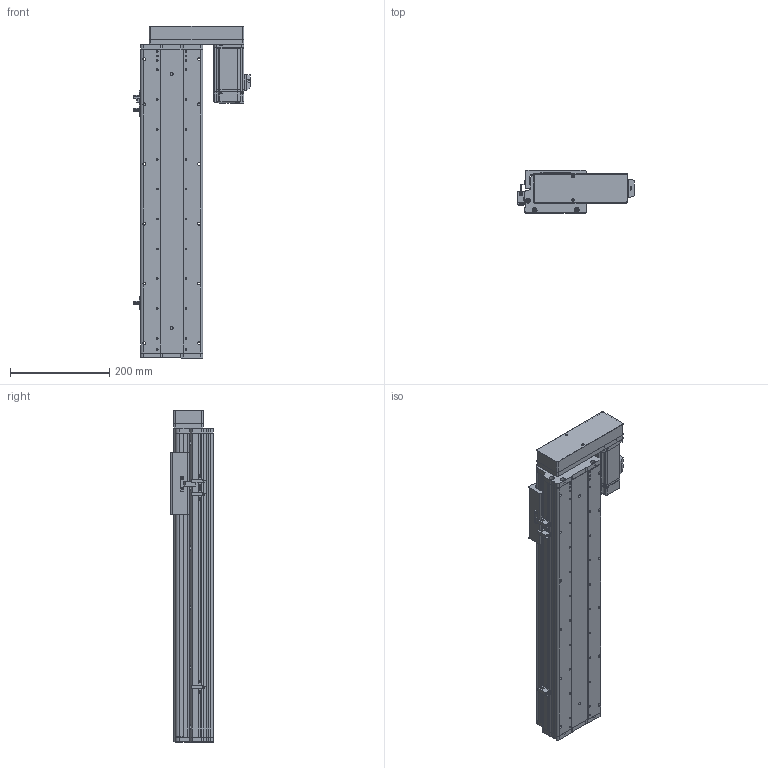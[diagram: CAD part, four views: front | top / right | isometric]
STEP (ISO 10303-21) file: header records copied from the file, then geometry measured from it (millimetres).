
FILE_DESCRIPTION (( 'STEP AP214' ), '1' );
FILE_NAME ('KSD125S-S400-MR-CM.STEP', '2017-10-21T08:54:46', ( '微软用户' ), ( '微软中国' ), 'SwSTEP 2.0', 'SolidWorks 2014', '' );
FILE_SCHEMA (( 'AUTOMOTIVE_DESIGN' ));
Length unit declared in the file: millimetre
Products named in the file (16): KSD125-賑雄釱1; 125-帣傷啣1; KSD125S-S400-MR-CM; HTPA30S3M150_A_H6_a佪裝蚚; HTPA30S3M150_A_H6_a萇儂蚚; 125宽马达安装板连板左右折丝杆; 125悵誘欶酘衵殏; MHMD042G1CA_2_03; KSD125S-400俴最佪裝滅鳥裔; KSD125S-400俴最佪裝菁啣; 拸萇儂釱滅袉菜; 拸萇儂釱滅袉菜-1; 覜茼え68遵圉猾敕; U倰嫖萇假蚾璃; U倰嫖萇EEㄜSX672; ヶ傷啣-125遵耀郪
Assembly tree (19 placements, depth 2):
  KSD125S-S400-MR-CM
    125-帣傷啣1
    KSD125-賑雄釱1
    ヶ傷啣-125遵耀郪
    U倰嫖萇EEㄜSX672  x3
    U倰嫖萇假蚾璃  x3
    覜茼え68遵圉猾敕
    拸萇儂釱滅袉菜-1
    拸萇儂釱滅袉菜
    KSD125S-400俴最佪裝菁啣
    KSD125S-400俴最佪裝滅鳥裔
    MHMD042G1CA_2_03
    125悵誘欶酘衵殏
    125宽马达安装板连板左右折丝杆
    HTPA30S3M150_A_H6_a萇儂蚚
    HTPA30S3M150_A_H6_a佪裝蚚
Bounding box: 234.2 x 86 x 667.5 mm (x, y, z)
Volume: 2374010.1 mm3; surface area: 833107 mm2
Topology: 18 solids, 21 shells, 2179 faces, 6315 edges, 4165 vertices
Faces by surface type: cylinder 1358, plane 680, cone 119, bspline 22
Entity records: 76661 total; most frequent: CARTESIAN_POINT 15613, DIRECTION 11973, ORIENTED_EDGE 11138, EDGE_CURVE 5647, AXIS2_PLACEMENT_3D 4623, VERTEX_POINT 3757, VECTOR 2727, LINE 2727
